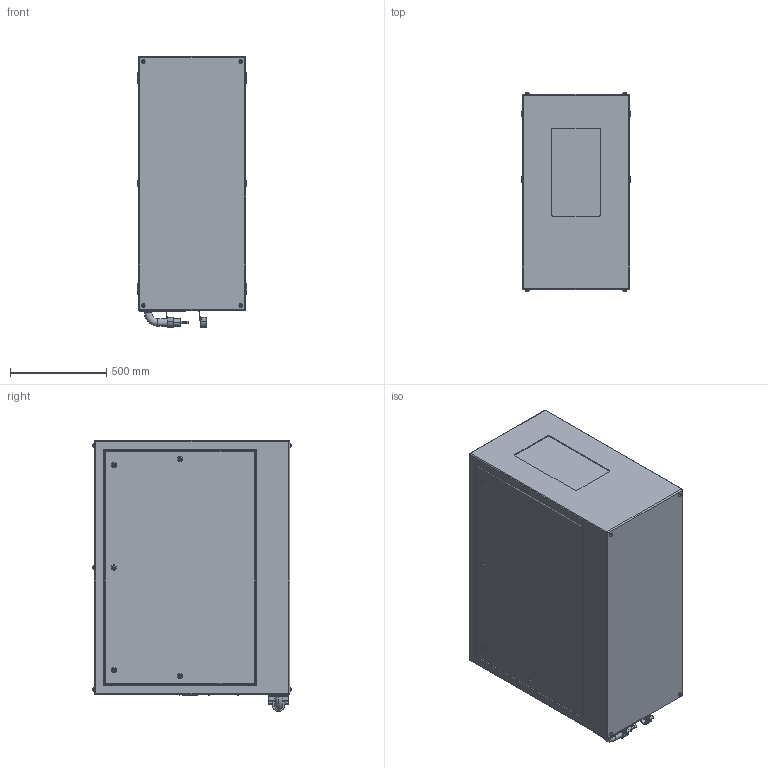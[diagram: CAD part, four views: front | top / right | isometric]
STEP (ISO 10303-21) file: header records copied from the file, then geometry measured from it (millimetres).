
FILE_DESCRIPTION (( 'STEP AP214' ), '1' );
FILE_NAME ('Oasis 59.210.P R02.STEP', '2022-09-12T23:39:00', ( '' ), ( '' ), 'SwSTEP 2.0', 'SolidWorks 2020', '' );
FILE_SCHEMA (( 'AUTOMOTIVE_DESIGN' ));
Length unit declared in the file: inch
Products named in the file (1): Oasis 59.210.P R02
Bounding box: 571.5 x 1033.27 x 1409.7 mm (x, y, z)
Volume: 748969060.7 mm3; surface area: 5897254.4 mm2
Topology: 3 solids, 9 shells, 570 faces, 1301 edges, 826 vertices
Faces by surface type: plane 315, cylinder 193, torus 54, bspline 8
Entity records: 21891 total; most frequent: CARTESIAN_POINT 3210, DIRECTION 2843, ORIENTED_EDGE 2586, EDGE_CURVE 1293, AXIS2_PLACEMENT_3D 1019, VERTEX_POINT 826, VECTOR 805, LINE 805
